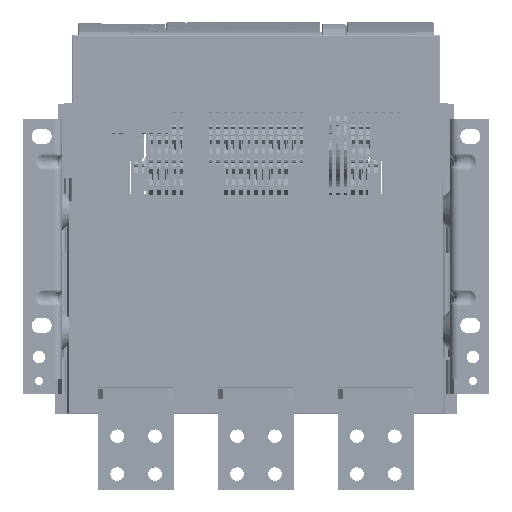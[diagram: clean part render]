
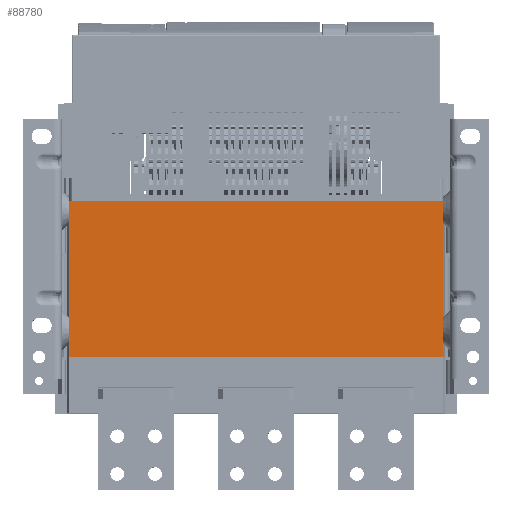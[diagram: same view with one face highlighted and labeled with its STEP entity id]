
A CAD part, top view. The second image highlights one B-rep face of the part: STEP entity #88780.
In plain terms, the highlighted planar face has unit normal (0, 0, 1).
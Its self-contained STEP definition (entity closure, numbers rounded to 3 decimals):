
#6164=FACE_OUTER_BOUND('',#11142,.T.);
#11142=EDGE_LOOP('',(#69984,#69985,#69986,#69987));
#20861=LINE('',#178895,#30175);
#20939=LINE('',#179071,#30253);
#21173=LINE('',#179582,#30487);
#21175=LINE('',#179586,#30489);
#30175=VECTOR('',#110875,296.);
#30253=VECTOR('',#110977,296.);
#30487=VECTOR('',#111405,123.);
#30489=VECTOR('',#111411,123.);
#39481=VERTEX_POINT('',#178892);
#39482=VERTEX_POINT('',#178894);
#39567=VERTEX_POINT('',#179068);
#39568=VERTEX_POINT('',#179070);
#50196=EDGE_CURVE('',#39481,#39482,#20861,.T.);
#50284=EDGE_CURVE('',#39568,#39567,#20939,.T.);
#50540=EDGE_CURVE('',#39567,#39482,#21173,.T.);
#50542=EDGE_CURVE('',#39568,#39481,#21175,.T.);
#69984=ORIENTED_EDGE('',*,*,#50284,.T.);
#69985=ORIENTED_EDGE('',*,*,#50540,.T.);
#69986=ORIENTED_EDGE('',*,*,#50196,.F.);
#69987=ORIENTED_EDGE('',*,*,#50542,.F.);
#84269=PLANE('',#95524);
#88780=ADVANCED_FACE('',(#6164),#84269,.T.);
#95524=AXIS2_PLACEMENT_3D('',#179585,#111409,#111410);
#110875=DIRECTION('',(1.,0.,0.));
#110977=DIRECTION('',(1.,0.,0.));
#111405=DIRECTION('',(0.,1.,0.));
#111409=DIRECTION('center_axis',(0.,0.,1.));
#111410=DIRECTION('ref_axis',(1.,0.,0.));
#111411=DIRECTION('',(0.,1.,0.));
#178892=CARTESIAN_POINT('',(-148.,123.,150.));
#178894=CARTESIAN_POINT('',(148.,123.,150.));
#178895=CARTESIAN_POINT('',(-148.,123.,150.));
#179068=CARTESIAN_POINT('',(148.,0.,150.));
#179070=CARTESIAN_POINT('',(-148.,0.,150.));
#179071=CARTESIAN_POINT('',(-148.,0.,150.));
#179582=CARTESIAN_POINT('',(148.,0.,150.));
#179585=CARTESIAN_POINT('Origin',(-148.,0.,150.));
#179586=CARTESIAN_POINT('',(-148.,0.,150.));
